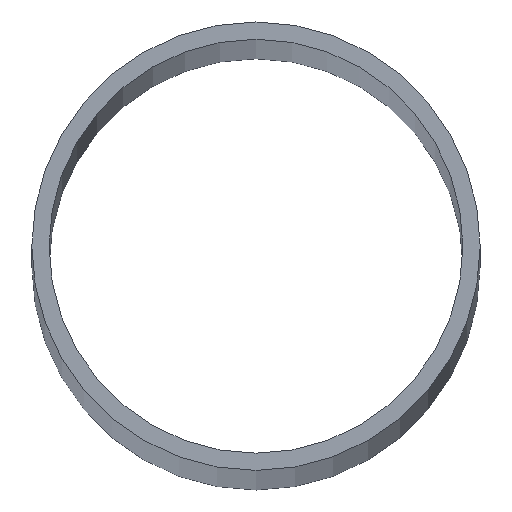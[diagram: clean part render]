
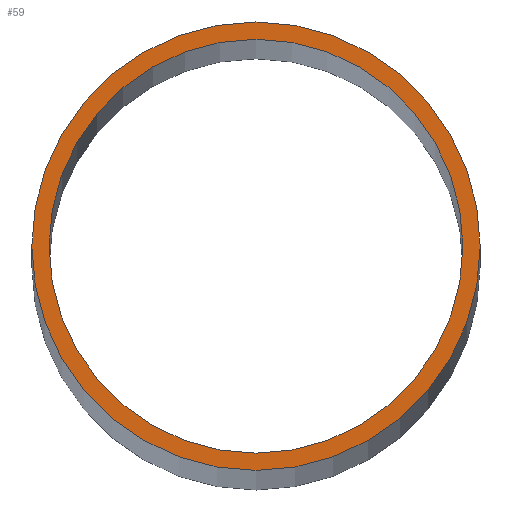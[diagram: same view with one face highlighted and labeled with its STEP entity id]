
A CAD part, top view. The second image highlights one B-rep face of the part: STEP entity #59.
In plain terms, the highlighted planar face has unit normal (0, 0, 1).
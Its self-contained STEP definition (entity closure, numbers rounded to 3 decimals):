
#12=PLANE($,#70);
#16=FACE_BOUND($,#26,.T.);
#17=FACE_BOUND($,#27,.T.);
#26=EDGE_LOOP($,(#46));
#27=EDGE_LOOP($,(#47));
#30=CIRCLE($,#65,92.3);
#32=CIRCLE($,#68,100.);
#34=VERTEX_POINT($,#92);
#36=VERTEX_POINT($,#97);
#38=EDGE_CURVE($,#34,#34,#30,.T.);
#40=EDGE_CURVE($,#36,#36,#32,.T.);
#46=ORIENTED_EDGE($,*,*,#38,.T.);
#47=ORIENTED_EDGE($,*,*,#40,.F.);
#59=ADVANCED_FACE($,(#16,#17),#12,.F.);
#65=AXIS2_PLACEMENT_3D($,#93,#76,#77);
#68=AXIS2_PLACEMENT_3D($,#98,#82,#83);
#70=AXIS2_PLACEMENT_3D($,#101,#86,#87);
#76=DIRECTION('center_axis',(0.,0.,-1.));
#77=DIRECTION('ref_axis',(-1.,0.,0.));
#82=DIRECTION('center_axis',(0.,0.,-1.));
#83=DIRECTION('ref_axis',(-1.,0.,0.));
#86=DIRECTION('center_axis',(0.,0.,-1.));
#87=DIRECTION('ref_axis',(-1.,0.,0.));
#92=CARTESIAN_POINT('',(92.3,0.,5000.));
#93=CARTESIAN_POINT('Origin',(0.,0.,5000.));
#97=CARTESIAN_POINT('',(100.,0.,5000.));
#98=CARTESIAN_POINT('Origin',(0.,0.,5000.));
#101=CARTESIAN_POINT('Origin',(0.,0.,5000.));
